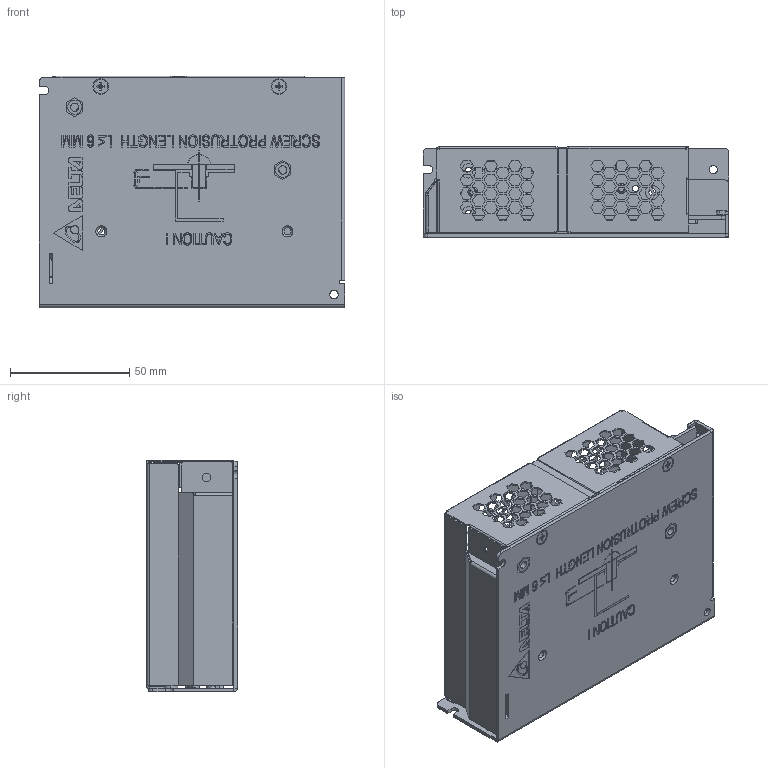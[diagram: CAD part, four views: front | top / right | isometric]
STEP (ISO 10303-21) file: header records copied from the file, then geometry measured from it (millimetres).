
FILE_DESCRIPTION((''),'2;1');
FILE_NAME('PMC-12V060W1NA_ASM','2013-06-26T',('Anothai'),(''),'PRO/ENGINEER BY PARAMETRIC TECHNOLOGY CORPORATION, 2010180','PRO/ENGINEER BY PARAMETRIC TECHNOLOGY CORPORATION, 2010180','');
FILE_SCHEMA(('CONFIG_CONTROL_DESIGN','SHAPE_APPEARANCE_LAYERS_GROUPS'));
Products named in the file (18): 331609630101_2; 331609630101_A_STUD_1; 331609630101_ASM_1_ASM; 331602180101_1; 326203870304_1; 3268095800_1; 2958037306_PWB_1; 307049747W_A_BODY_1; 307049747W_A_SCREW_1; 307049747W_ASM_1_ASM; EE_VR_A_BODY_1; EE_VR_A_LEG_1; EE_VR_ASM_1_ASM; EE_LED1__1; ASSY_PWB_ASM_3_ASM; 3100001200_1; 3100000400_1; PMC-12V060W1NA_ASM
Assembly tree (28 placements, depth 4):
  PMC-12V060W1NA_ASM
    331609630101_ASM_1_ASM
      331609630101_2
      331609630101_A_STUD_1  x2
    331602180101_1
    326203870304_1
    3268095800_1
    ASSY_PWB_ASM_3_ASM
      2958037306_PWB_1
      307049747W_ASM_1_ASM
        307049747W_A_BODY_1
        307049747W_A_SCREW_1  x5
      EE_VR_ASM_1_ASM
        EE_VR_A_BODY_1
        EE_VR_A_LEG_1  x3
      EE_LED1__1
    3100001200_1  x2
    3100000400_1  x4
Bounding box: 128 x 38.15 x 97.05 mm (x, y, z)
Volume: 61874.8 mm3; surface area: 107802.4 mm2
Topology: 24 solids, 24 shells, 5088 faces, 13802 edges, 8625 vertices
Faces by surface type: plane 3738, cylinder 506, extrusion 402, bspline 290, cone 132, torus 20
Entity records: 173777 total; most frequent: CARTESIAN_POINT 31116, ORIENTED_EDGE 23808, DIRECTION 19961, EDGE_CURVE 11904, PRESENTATION_STYLE_ASSIGNMENT 11017, STYLED_ITEM 10981, CURVE_STYLE 10916, VECTOR 10403
